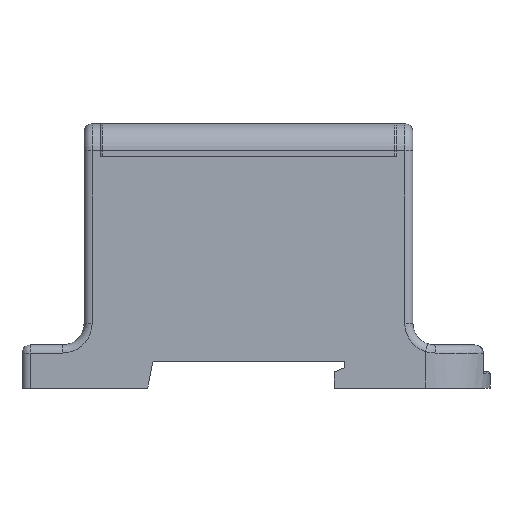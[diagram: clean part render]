
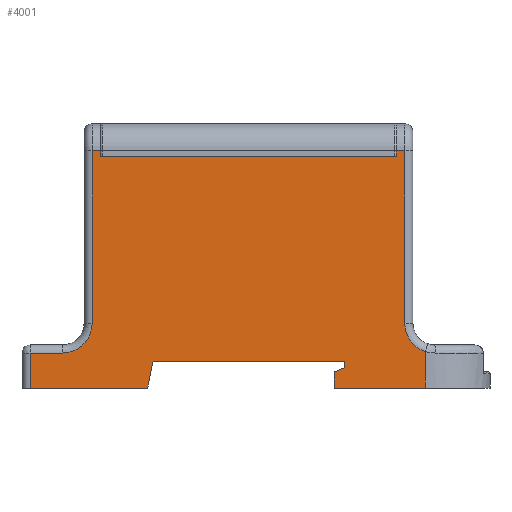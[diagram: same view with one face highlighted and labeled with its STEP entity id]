
A CAD part, front view. The second image highlights one B-rep face of the part: STEP entity #4001.
In plain terms, the highlighted planar face has unit normal (0, -1, 0).
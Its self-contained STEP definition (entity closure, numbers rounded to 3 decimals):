
#561=DIRECTION('',(0.,0.,-1.));
#562=VECTOR('',#561,32.);
#563=CARTESIAN_POINT('',(29.,-12.,1.));
#564=LINE('',#563,#562);
#565=CARTESIAN_POINT('',(34.5,-12.,-31.));
#566=DIRECTION('',(0.,-1.,0.));
#567=DIRECTION('',(-1.,0.,0.));
#568=AXIS2_PLACEMENT_3D('',#565,#566,#567);
#570=DIRECTION('',(0.,0.,1.));
#571=VECTOR('',#570,6.769);
#572=CARTESIAN_POINT('',(32.8,-12.,-43.));
#573=LINE('',#572,#571);
#574=DIRECTION('',(-1.,0.,0.));
#575=VECTOR('',#574,16.9);
#576=CARTESIAN_POINT('',(32.8,-12.,-43.));
#577=LINE('',#576,#575);
#578=DIRECTION('',(0.,0.,1.));
#579=VECTOR('',#578,3.);
#580=CARTESIAN_POINT('',(15.9,-12.,-43.));
#581=LINE('',#580,#579);
#582=DIRECTION('',(0.922,0.,0.388));
#583=VECTOR('',#582,2.062);
#584=CARTESIAN_POINT('',(15.9,-12.,-40.));
#585=LINE('',#584,#583);
#586=DIRECTION('',(0.,0.,1.));
#587=VECTOR('',#586,1.2);
#588=CARTESIAN_POINT('',(17.8,-12.,-39.2));
#589=LINE('',#588,#587);
#590=DIRECTION('',(-1.,0.,0.));
#591=VECTOR('',#590,35.5);
#592=CARTESIAN_POINT('',(17.8,-12.,-38.));
#593=LINE('',#592,#591);
#594=DIRECTION('',(-0.196,0.,-0.981));
#595=VECTOR('',#594,5.099);
#596=CARTESIAN_POINT('',(-17.7,-12.,-38.));
#597=LINE('',#596,#595);
#598=DIRECTION('',(-1.,0.,0.));
#599=VECTOR('',#598,21.8);
#600=CARTESIAN_POINT('',(-18.7,-12.,-43.));
#601=LINE('',#600,#599);
#602=DIRECTION('',(0.,0.,-1.));
#603=VECTOR('',#602,6.5);
#604=CARTESIAN_POINT('',(-40.5,-12.,-36.5));
#605=LINE('',#604,#603);
#606=DIRECTION('',(-1.,0.,0.));
#607=VECTOR('',#606,6.);
#608=CARTESIAN_POINT('',(-34.5,-12.,-36.5));
#609=LINE('',#608,#607);
#610=CARTESIAN_POINT('',(-34.5,-12.,-31.));
#611=DIRECTION('',(0.,1.,0.));
#612=DIRECTION('',(1.,0.,0.));
#613=AXIS2_PLACEMENT_3D('',#610,#611,#612);
#615=DIRECTION('',(0.,0.,-1.));
#616=VECTOR('',#615,32.);
#617=CARTESIAN_POINT('',(-29.,-12.,1.));
#618=LINE('',#617,#616);
#619=DIRECTION('',(-1.,0.,0.));
#620=VECTOR('',#619,1.55);
#621=CARTESIAN_POINT('',(-27.45,-12.,1.));
#622=LINE('',#621,#620);
#623=DIRECTION('',(0.,0.,-1.));
#624=VECTOR('',#623,1.);
#625=CARTESIAN_POINT('',(-27.45,-12.,1.));
#626=LINE('',#625,#624);
#627=DIRECTION('',(1.,0.,0.));
#628=VECTOR('',#627,54.9);
#629=CARTESIAN_POINT('',(-27.45,-12.,0.));
#630=LINE('',#629,#628);
#631=DIRECTION('',(0.,0.,1.));
#632=VECTOR('',#631,1.);
#633=CARTESIAN_POINT('',(27.45,-12.,0.));
#634=LINE('',#633,#632);
#635=DIRECTION('',(-1.,0.,0.));
#636=VECTOR('',#635,1.55);
#637=CARTESIAN_POINT('',(29.,-12.,1.));
#638=LINE('',#637,#636);
#2511=CARTESIAN_POINT('',(15.9,-12.,-43.));
#2512=CARTESIAN_POINT('',(15.9,-12.,-40.));
#2513=VERTEX_POINT('',#2511);
#2514=VERTEX_POINT('',#2512);
#2515=CARTESIAN_POINT('',(17.8,-12.,-39.2));
#2516=VERTEX_POINT('',#2515);
#2517=CARTESIAN_POINT('',(17.8,-12.,-38.));
#2518=VERTEX_POINT('',#2517);
#2519=CARTESIAN_POINT('',(-17.7,-12.,-38.));
#2520=VERTEX_POINT('',#2519);
#2521=CARTESIAN_POINT('',(-18.7,-12.,-43.));
#2522=VERTEX_POINT('',#2521);
#2527=CARTESIAN_POINT('',(32.8,-12.,-43.));
#2529=VERTEX_POINT('',#2527);
#2595=CARTESIAN_POINT('',(-27.45,-12.,0.));
#2596=CARTESIAN_POINT('',(27.45,-12.,0.));
#2597=VERTEX_POINT('',#2595);
#2598=VERTEX_POINT('',#2596);
#2743=CARTESIAN_POINT('',(27.45,-12.,1.));
#2745=VERTEX_POINT('',#2743);
#2752=CARTESIAN_POINT('',(-27.45,-12.,1.));
#2754=VERTEX_POINT('',#2752);
#2760=CARTESIAN_POINT('',(29.,-12.,1.));
#2762=VERTEX_POINT('',#2760);
#2765=CARTESIAN_POINT('',(29.,-12.,-31.));
#2766=VERTEX_POINT('',#2765);
#2769=CARTESIAN_POINT('',(32.8,-12.,-36.231));
#2770=VERTEX_POINT('',#2769);
#2801=CARTESIAN_POINT('',(-34.5,-12.,-36.5));
#2802=CARTESIAN_POINT('',(-40.5,-12.,-36.5));
#2803=VERTEX_POINT('',#2801);
#2804=VERTEX_POINT('',#2802);
#2805=CARTESIAN_POINT('',(-29.,-12.,-31.));
#2806=VERTEX_POINT('',#2805);
#2809=CARTESIAN_POINT('',(-29.,-12.,1.));
#2810=VERTEX_POINT('',#2809);
#2835=CARTESIAN_POINT('',(-40.5,-12.,-43.));
#2837=VERTEX_POINT('',#2835);
#3959=CARTESIAN_POINT('',(0.,-12.,0.));
#3960=DIRECTION('',(0.,1.,0.));
#3961=DIRECTION('',(0.,0.,1.));
#3962=AXIS2_PLACEMENT_3D('',#3959,#3960,#3961);
#3963=PLANE('',#3962);
#3965=ORIENTED_EDGE('',*,*,#3964,.T.);
#3966=ORIENTED_EDGE('',*,*,#3316,.T.);
#3968=ORIENTED_EDGE('',*,*,#3967,.F.);
#3970=ORIENTED_EDGE('',*,*,#3969,.T.);
#3972=ORIENTED_EDGE('',*,*,#3971,.T.);
#3974=ORIENTED_EDGE('',*,*,#3973,.T.);
#3976=ORIENTED_EDGE('',*,*,#3975,.T.);
#3978=ORIENTED_EDGE('',*,*,#3977,.T.);
#3980=ORIENTED_EDGE('',*,*,#3979,.T.);
#3982=ORIENTED_EDGE('',*,*,#3981,.T.);
#3984=ORIENTED_EDGE('',*,*,#3983,.F.);
#3986=ORIENTED_EDGE('',*,*,#3985,.F.);
#3988=ORIENTED_EDGE('',*,*,#3987,.F.);
#3990=ORIENTED_EDGE('',*,*,#3989,.F.);
#3991=ORIENTED_EDGE('',*,*,#3954,.F.);
#3992=ORIENTED_EDGE('',*,*,#3866,.T.);
#3994=ORIENTED_EDGE('',*,*,#3993,.T.);
#3996=ORIENTED_EDGE('',*,*,#3995,.T.);
#3998=ORIENTED_EDGE('',*,*,#3997,.F.);
#3999=EDGE_LOOP('',(#3965,#3966,#3968,#3970,#3972,#3974,#3976,#3978,#3980,#3982,
#3984,#3986,#3988,#3990,#3991,#3992,#3994,#3996,#3998));
#4000=FACE_OUTER_BOUND('',#3999,.F.);
#569=CIRCLE('',#568,5.5);
#614=CIRCLE('',#613,5.5);
#3316=EDGE_CURVE('',#2766,#2770,#569,.T.);
#3866=EDGE_CURVE('',#2754,#2597,#626,.T.);
#3954=EDGE_CURVE('',#2754,#2810,#622,.T.);
#3964=EDGE_CURVE('',#2762,#2766,#564,.T.);
#3967=EDGE_CURVE('',#2529,#2770,#573,.T.);
#3969=EDGE_CURVE('',#2529,#2513,#577,.T.);
#3971=EDGE_CURVE('',#2513,#2514,#581,.T.);
#3973=EDGE_CURVE('',#2514,#2516,#585,.T.);
#3975=EDGE_CURVE('',#2516,#2518,#589,.T.);
#3977=EDGE_CURVE('',#2518,#2520,#593,.T.);
#3979=EDGE_CURVE('',#2520,#2522,#597,.T.);
#3981=EDGE_CURVE('',#2522,#2837,#601,.T.);
#3983=EDGE_CURVE('',#2804,#2837,#605,.T.);
#3985=EDGE_CURVE('',#2803,#2804,#609,.T.);
#3987=EDGE_CURVE('',#2806,#2803,#614,.T.);
#3989=EDGE_CURVE('',#2810,#2806,#618,.T.);
#3993=EDGE_CURVE('',#2597,#2598,#630,.T.);
#3995=EDGE_CURVE('',#2598,#2745,#634,.T.);
#3997=EDGE_CURVE('',#2762,#2745,#638,.T.);
#4001=ADVANCED_FACE('',(#4000),#3963,.F.);
